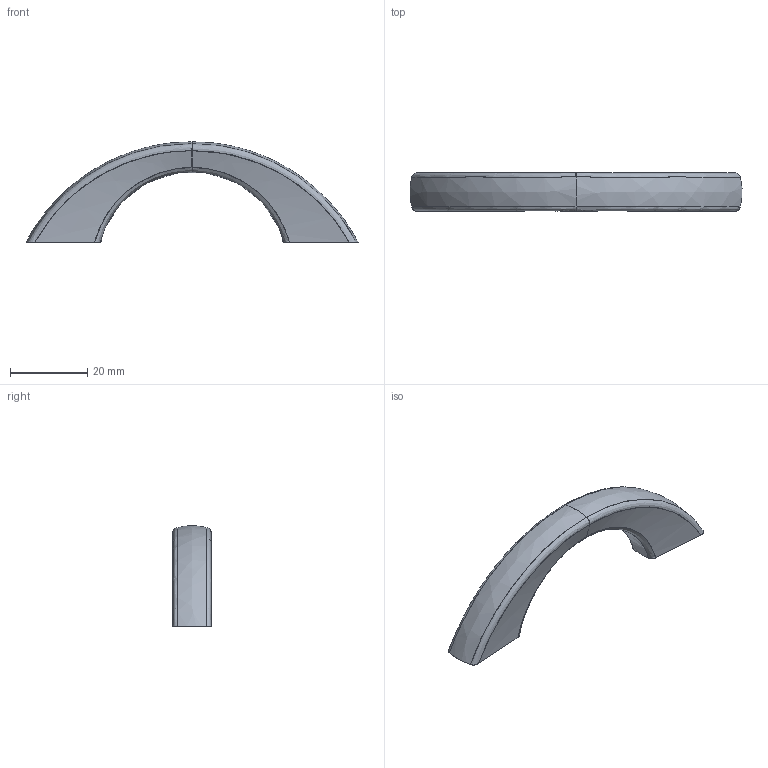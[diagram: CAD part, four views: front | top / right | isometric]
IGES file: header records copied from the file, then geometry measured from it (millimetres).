
Start section: C
Global section: file name: 0563-86.igs; native system: By Siemens PLM Incorporated; preprocessor: XPlus GENERIC/IGES 16.0.42; author: Author; organization: Title; date: 20260104.150733; units: millimetre
Bounding box: 85.93 x 10.04 x 25.98 mm (x, y, z)
Surface area: 3780 mm2 (no closed solid volume)
Topology: 0 solids, 0 shells, 24 faces, 108 edges, 108 vertices
Faces by surface type: bspline 24
